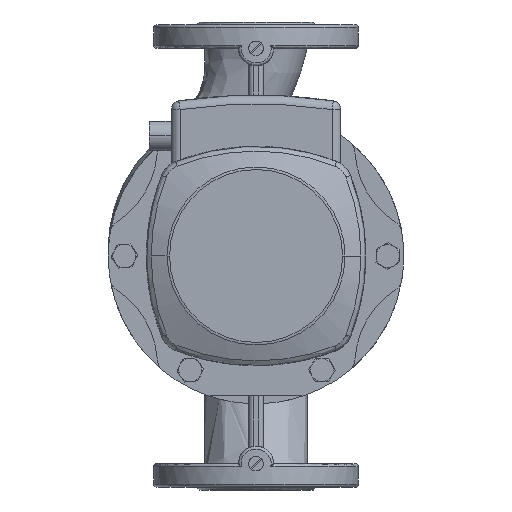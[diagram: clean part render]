
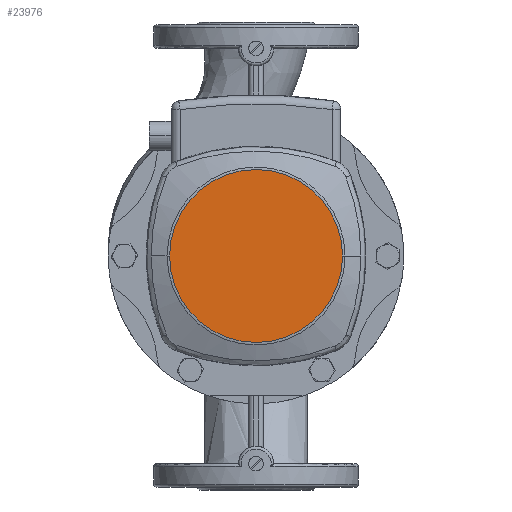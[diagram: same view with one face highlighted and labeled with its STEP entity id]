
A CAD part, front view. The second image highlights one B-rep face of the part: STEP entity #23976.
In plain terms, the highlighted planar face has unit normal (0, -1, 0).
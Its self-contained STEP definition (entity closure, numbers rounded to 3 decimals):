
#7330 = DIRECTION ( 'NONE',  ( 0., 1., 0. ) ) ;
#7515 = DIRECTION ( 'NONE',  ( -1., 0., 0. ) ) ;
#7586 = CARTESIAN_POINT ( 'NONE',  ( 0., -255., 0. ) ) ;
#7995 = DIRECTION ( 'NONE',  ( -1., 0., 0. ) ) ;
#9224 = EDGE_CURVE ( 'NONE', #36628, #15210, #27099, .T. ) ;
#10013 = DIRECTION ( 'NONE',  ( -1., 0., 0. ) ) ;
#10609 = DIRECTION ( 'NONE',  ( 0., -1., 0. ) ) ;
#15210 = VERTEX_POINT ( 'NONE', #35077 ) ;
#15257 = EDGE_CURVE ( 'NONE', #15210, #36628, #35777, .T. ) ;
#16015 = PLANE ( 'NONE',  #28204 ) ;
#18839 = ORIENTED_EDGE ( 'NONE', *, *, #15257, .T. ) ;
#21502 = CARTESIAN_POINT ( 'NONE',  ( 59.118, -255., 0. ) ) ;
#23976 = ADVANCED_FACE ( 'NONE', ( #32184 ), #16015, .F. ) ;
#25189 = AXIS2_PLACEMENT_3D ( 'NONE', #29462, #10609, #7515 ) ;
#27099 = CIRCLE ( 'NONE', #29755, 59.118 ) ;
#28145 = ORIENTED_EDGE ( 'NONE', *, *, #9224, .T. ) ;
#28204 = AXIS2_PLACEMENT_3D ( 'NONE', #35703, #7330, #10013 ) ;
#29462 = CARTESIAN_POINT ( 'NONE',  ( 0., -255., 0. ) ) ;
#29755 = AXIS2_PLACEMENT_3D ( 'NONE', #7586, #36173, #7995 ) ;
#32184 = FACE_OUTER_BOUND ( 'NONE', #38978, .T. ) ;
#35077 = CARTESIAN_POINT ( 'NONE',  ( -59.118, -255., 0. ) ) ;
#35703 = CARTESIAN_POINT ( 'NONE',  ( 0., -255., 0. ) ) ;
#35777 = CIRCLE ( 'NONE', #25189, 59.118 ) ;
#36173 = DIRECTION ( 'NONE',  ( 0., -1., 0. ) ) ;
#36628 = VERTEX_POINT ( 'NONE', #21502 ) ;
#38978 = EDGE_LOOP ( 'NONE', ( #18839, #28145 ) ) ;
